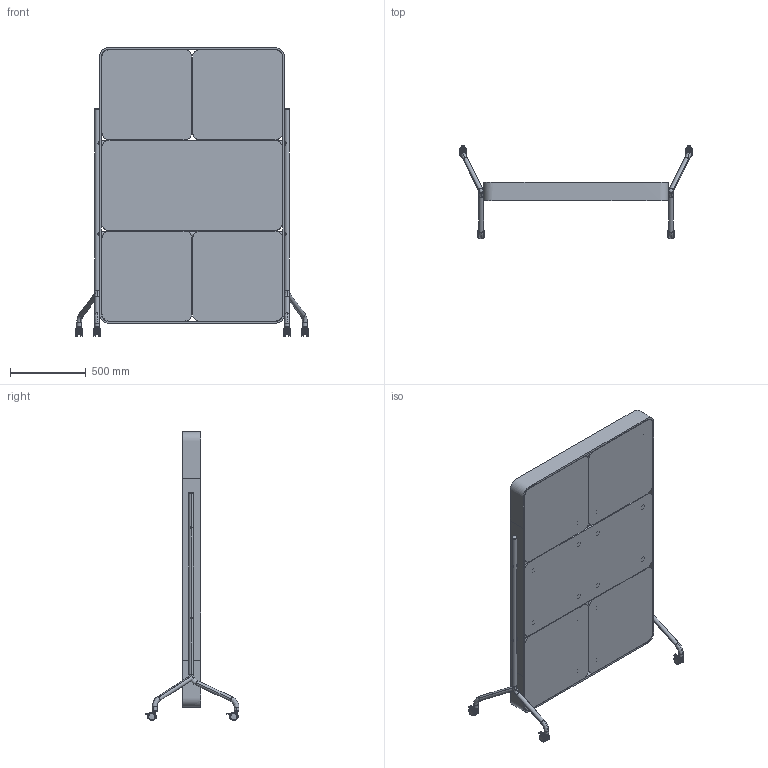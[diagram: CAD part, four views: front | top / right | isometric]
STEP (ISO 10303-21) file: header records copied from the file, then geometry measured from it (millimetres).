
FILE_DESCRIPTION(/* description */ (''),/* implementation_level */ '2;1');
FILE_NAME(/* name */ 'Quiet Wall Vertical Castors',/* time_stamp */ '2026-06-15T17:22:50+12:00',/* author */ (''),/* organization */ (''),/* preprocessor_version */ 'ST-DEVELOPER v19.2',/* originating_system */ 'Rhino 8.31',/* authorisation */ '');
FILE_SCHEMA (('CONFIG_CONTROL_DESIGN'));
Length unit declared in the file: millimetre
Products named in the file (13): Document; Leg System D; Leg System D.STEP; CROSS MEMBER.STEP; Tube Leg; Tube Leg(Mirror); 600x1200 Tile; 600x600 Tile; Castor Wheel6; Block 01; Castor Wheel4; Castor Wheel2; Castor Wheel
Bounding box: 1545.17 x 621.26 x 1911.26 mm (x, y, z)
Volume: 59631820.9 mm3; surface area: 11767525 mm2
Topology: 50 solids, 58 shells, 1172 faces, 3012 edges, 2016 vertices
Faces by surface type: cylinder 620, plane 414, bspline 138
Entity records: 59644 total; most frequent: CARTESIAN_POINT 43533, ORIENTED_EDGE 3421, DIRECTION 1965, EDGE_CURVE 1756, AXIS2_PLACEMENT_3D 1284, VERTEX_POINT 1163, B_SPLINE_CURVE_WITH_KNOTS 1053, EDGE_LOOP 807
